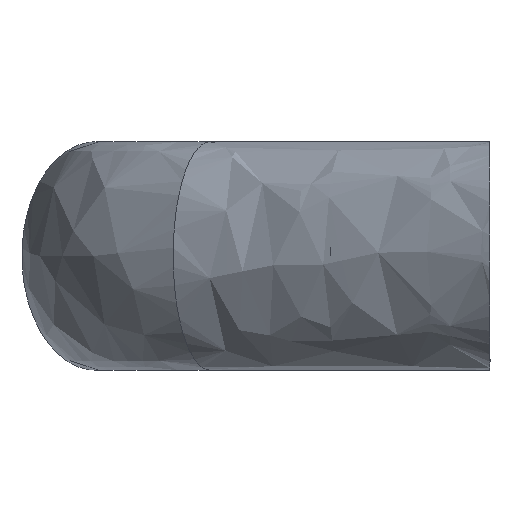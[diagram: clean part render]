
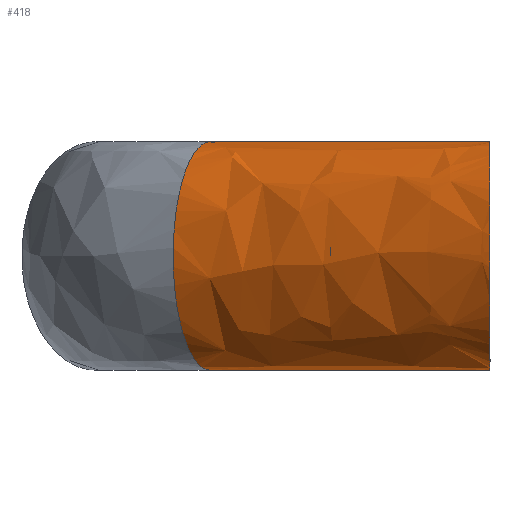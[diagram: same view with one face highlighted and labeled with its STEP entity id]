
A CAD part, left-side view. The second image highlights one B-rep face of the part: STEP entity #418.
In plain terms, the highlighted free-form (B-spline) face has degree [3, 1] with [4, 2] control points.
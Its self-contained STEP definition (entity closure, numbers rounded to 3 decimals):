
#11 = EDGE_CURVE ( 'NONE', #27, #487, #136, .T. ) ;
#27 = VERTEX_POINT ( 'NONE', #198 ) ;
#37 = VERTEX_POINT ( 'NONE', #376 ) ;
#43 = VERTEX_POINT ( 'NONE', #137 ) ;
#55 = CARTESIAN_POINT ( 'NONE',  ( -64.468, 0., 9.891 ) ) ;
#56 = CARTESIAN_POINT ( 'NONE',  ( -69.572, 0., 5.575 ) ) ;
#61 = CARTESIAN_POINT ( 'NONE',  ( -67.503, 0., -8.335 ) ) ;
#66 = CARTESIAN_POINT ( 'NONE',  ( -49.179, 24.5, -10. ) ) ;
#69 = B_SPLINE_CURVE_WITH_KNOTS ( 'NONE', 3,
 ( #281, #240, #420, #55, #472, #118, #532, #187, #599, #243, #664, #299, #727, #368, #789, #422, #56, #475, #120, #535, #189, #603, #246, #665, #302, #729, #370, #791, #423, #61, #477, #122, #537, #191, #606, #249, #668, #305 ),
 .UNSPECIFIED., .F., .F.,
 ( 4, 2, 2, 2, 2, 2, 2, 2, 2, 2, 2, 2, 2, 2, 2, 2, 2, 2, 4 ),
 ( 0.028, 0.029, 0.029, 0.03, 0.031, 0.032, 0.033, 0.035, 0.036, 0.038, 0.042, 0.045, 0.047, 0.048, 0.05, 0.052, 0.054, 0.055, 0.055 ),
 .UNSPECIFIED. ) ;
#75 = VECTOR ( 'NONE', #553, 1000. ) ;
#118 = CARTESIAN_POINT ( 'NONE',  ( -65.294, 0., 9.657 ) ) ;
#120 = CARTESIAN_POINT ( 'NONE',  ( -70.226, 0., 3.974 ) ) ;
#122 = CARTESIAN_POINT ( 'NONE',  ( -66.103, 0., -9.317 ) ) ;
#136 =( BOUNDED_CURVE ( )  B_SPLINE_CURVE ( 3, ( #66, #675, #145, #375 ),
 .UNSPECIFIED., .F., .T. ) 
 B_SPLINE_CURVE_WITH_KNOTS ( ( 4, 4 ),
 ( 0., 3.142 ),
 .UNSPECIFIED. ) 
 CURVE ( )  GEOMETRIC_REPRESENTATION_ITEM ( )  RATIONAL_B_SPLINE_CURVE ( ( 1., 0.333, 0.333, 1. ) ) 
 REPRESENTATION_ITEM ( '' )  );
#137 = CARTESIAN_POINT ( 'NONE',  ( -63.325, 0., 10. ) ) ;
#145 = CARTESIAN_POINT ( 'NONE',  ( -60.438, 31., 10. ) ) ;
#187 = CARTESIAN_POINT ( 'NONE',  ( -66.083, 0., 9.307 ) ) ;
#189 = CARTESIAN_POINT ( 'NONE',  ( -70.83, 0., 1.152 ) ) ;
#191 = CARTESIAN_POINT ( 'NONE',  ( -64.755, 0., -9.824 ) ) ;
#192 = CARTESIAN_POINT ( 'NONE',  ( -60.438, 31., -10. ) ) ;
#198 = CARTESIAN_POINT ( 'NONE',  ( -49.179, 24.5, -10. ) ) ;
#224 = VECTOR ( 'NONE', #381, 1000. ) ;
#232 = ORIENTED_EDGE ( 'NONE', *, *, #11, .F. ) ;
#239 = ORIENTED_EDGE ( 'NONE', *, *, #784, .F. ) ;
#240 = CARTESIAN_POINT ( 'NONE',  ( -63.609, 0., 10. ) ) ;
#243 = CARTESIAN_POINT ( 'NONE',  ( -66.819, 0., 8.857 ) ) ;
#246 = CARTESIAN_POINT ( 'NONE',  ( -70.682, 0., -2.306 ) ) ;
#249 = CARTESIAN_POINT ( 'NONE',  ( -63.905, 0., -9.977 ) ) ;
#250 = CARTESIAN_POINT ( 'NONE',  ( -60.438, 31., 10. ) ) ;
#281 = CARTESIAN_POINT ( 'NONE',  ( -63.325, 0., 10. ) ) ;
#299 = CARTESIAN_POINT ( 'NONE',  ( -67.494, 0., 8.323 ) ) ;
#302 = CARTESIAN_POINT ( 'NONE',  ( -70.035, 0., -4.521 ) ) ;
#305 = CARTESIAN_POINT ( 'NONE',  ( -63.325, 0., -10. ) ) ;
#307 = CARTESIAN_POINT ( 'NONE',  ( -49.179, 24.5, 10. ) ) ;
#322 = CARTESIAN_POINT ( 'NONE',  ( -49.179, 24.5, 10. ) ) ;
#363 = EDGE_CURVE ( 'NONE', #43, #37, #69, .T. ) ;
#368 = CARTESIAN_POINT ( 'NONE',  ( -68.31, 0., 7.506 ) ) ;
#370 = CARTESIAN_POINT ( 'NONE',  ( -69.299, 0., -6.087 ) ) ;
#371 = CARTESIAN_POINT ( 'NONE',  ( -49.179, 24.5, -10. ) ) ;
#375 = CARTESIAN_POINT ( 'NONE',  ( -49.179, 24.5, 10. ) ) ;
#376 = CARTESIAN_POINT ( 'NONE',  ( -63.325, 0., -10. ) ) ;
#381 = DIRECTION ( 'NONE',  ( -0.5, -0.866, 0. ) ) ;
#391 = FACE_OUTER_BOUND ( 'NONE', #593, .T. ) ;
#418 = ADVANCED_FACE ( 'NONE', ( #391 ), #576, .F. ) ;
#420 = CARTESIAN_POINT ( 'NONE',  ( -63.895, 0., 9.978 ) ) ;
#422 = CARTESIAN_POINT ( 'NONE',  ( -69.299, 0., 6.086 ) ) ;
#423 = CARTESIAN_POINT ( 'NONE',  ( -68.309, 0., -7.508 ) ) ;
#434 = CARTESIAN_POINT ( 'NONE',  ( -49.179, 24.5, -10. ) ) ;
#472 = CARTESIAN_POINT ( 'NONE',  ( -64.748, 0., 9.826 ) ) ;
#475 = CARTESIAN_POINT ( 'NONE',  ( -70.035, 0., 4.52 ) ) ;
#477 = CARTESIAN_POINT ( 'NONE',  ( -67.064, 0., -8.699 ) ) ;
#487 = VERTEX_POINT ( 'NONE', #542 ) ;
#532 = CARTESIAN_POINT ( 'NONE',  ( -65.561, 0., 9.553 ) ) ;
#535 = CARTESIAN_POINT ( 'NONE',  ( -70.681, 0., 2.307 ) ) ;
#537 = CARTESIAN_POINT ( 'NONE',  ( -65.574, 0., -9.569 ) ) ;
#540 = CARTESIAN_POINT ( 'NONE',  ( -65.3, -3.422, -10. ) ) ;
#542 = CARTESIAN_POINT ( 'NONE',  ( -49.179, 24.5, 10. ) ) ;
#553 = DIRECTION ( 'NONE',  ( -0.5, -0.866, 0. ) ) ;
#576 =( BOUNDED_SURFACE ( )  B_SPLINE_SURFACE ( 3, 1, ( 
 ( #371, #540 ),
 ( #192, #608 ),
 ( #250, #673 ),
 ( #307, #733 ) ),
 .UNSPECIFIED., .F., .F., .F. ) 
 B_SPLINE_SURFACE_WITH_KNOTS ( ( 4, 4 ),
 ( 2, 2 ),
 ( 0., 1. ),
 ( 0., 1. ),
 .UNSPECIFIED. ) 
 GEOMETRIC_REPRESENTATION_ITEM ( )  RATIONAL_B_SPLINE_SURFACE ( (
 ( 1., 1.),
 ( 0.333, 0.333),
 ( 0.333, 0.333),
 ( 1., 1.) ) ) 
 REPRESENTATION_ITEM ( '' )  SURFACE ( )  );
#577 = LINE ( 'NONE', #434, #75 ) ;
#593 = EDGE_LOOP ( 'NONE', ( #239, #232, #594, #653 ) ) ;
#594 = ORIENTED_EDGE ( 'NONE', *, *, #726, .T. ) ;
#599 = CARTESIAN_POINT ( 'NONE',  ( -66.336, 0., 9.167 ) ) ;
#603 = CARTESIAN_POINT ( 'NONE',  ( -70.83, 0., -1.155 ) ) ;
#606 = CARTESIAN_POINT ( 'NONE',  ( -64.476, 0., -9.889 ) ) ;
#608 = CARTESIAN_POINT ( 'NONE',  ( -76.558, 3.078, -10. ) ) ;
#653 = ORIENTED_EDGE ( 'NONE', *, *, #363, .F. ) ;
#664 = CARTESIAN_POINT ( 'NONE',  ( -67.05, 0., 8.688 ) ) ;
#665 = CARTESIAN_POINT ( 'NONE',  ( -70.225, 0., -3.977 ) ) ;
#668 = CARTESIAN_POINT ( 'NONE',  ( -63.614, 0., -10. ) ) ;
#673 = CARTESIAN_POINT ( 'NONE',  ( -76.558, 3.078, 10. ) ) ;
#675 = CARTESIAN_POINT ( 'NONE',  ( -60.438, 31., -10. ) ) ;
#705 = LINE ( 'NONE', #322, #224 ) ;
#726 = EDGE_CURVE ( 'NONE', #27, #37, #577, .T. ) ;
#727 = CARTESIAN_POINT ( 'NONE',  ( -67.706, 0., 8.126 ) ) ;
#729 = CARTESIAN_POINT ( 'NONE',  ( -69.571, 0., -5.578 ) ) ;
#733 = CARTESIAN_POINT ( 'NONE',  ( -65.3, -3.422, 10. ) ) ;
#784 = EDGE_CURVE ( 'NONE', #487, #43, #705, .T. ) ;
#789 = CARTESIAN_POINT ( 'NONE',  ( -68.669, 0., 7.051 ) ) ;
#791 = CARTESIAN_POINT ( 'NONE',  ( -68.667, 0., -7.053 ) ) ;
